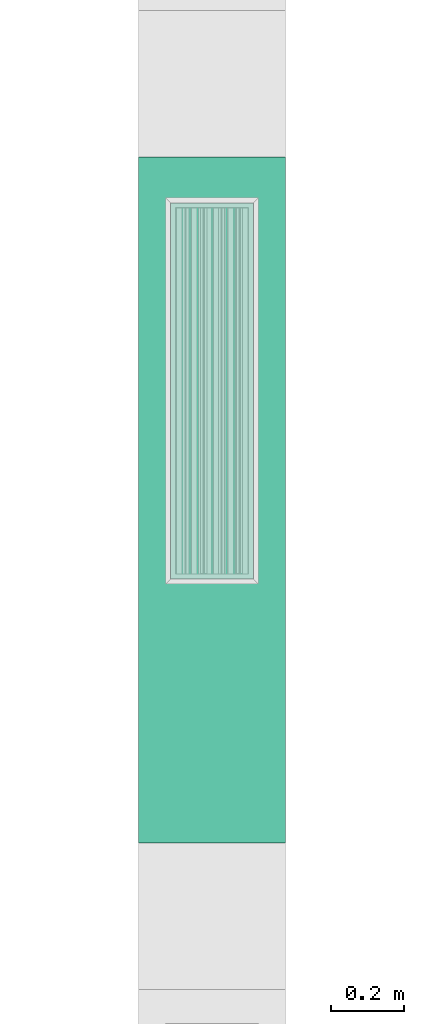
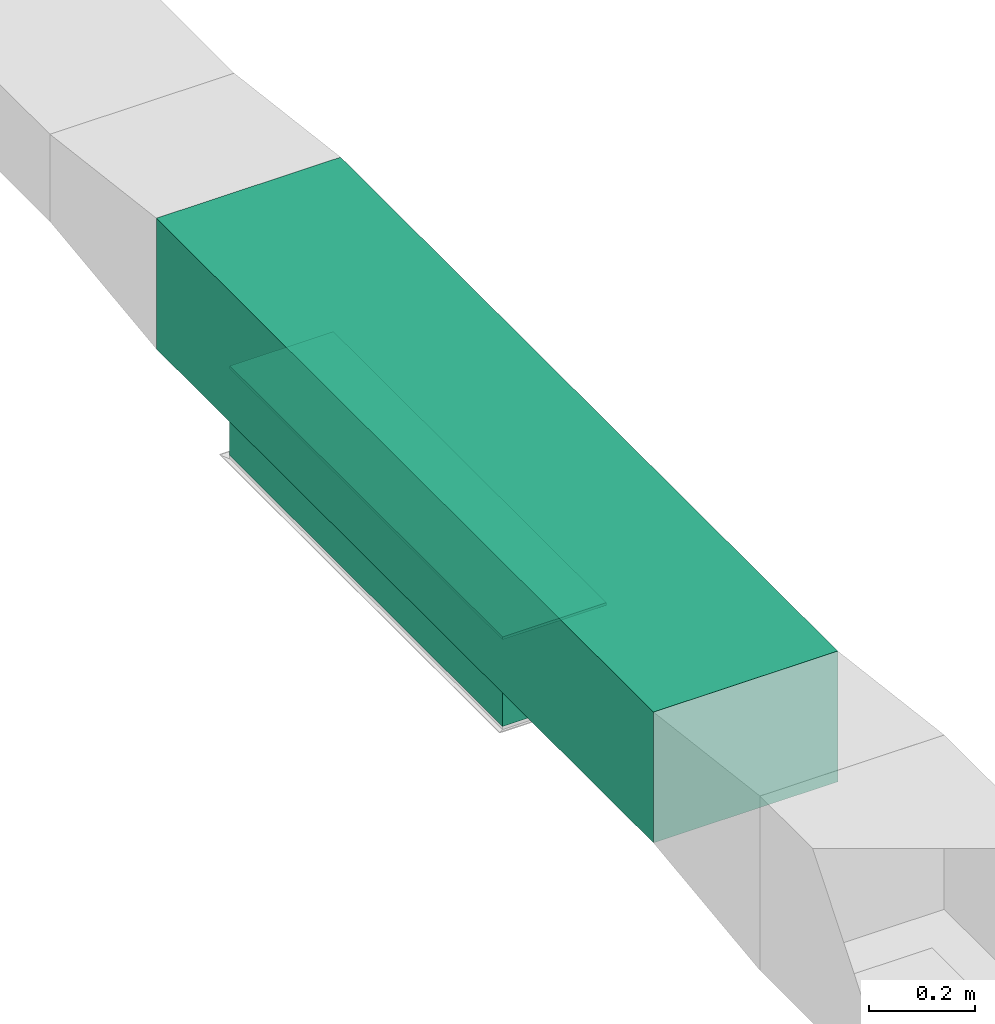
# One storey, part 15 of 60: 2 flow segments, 1 flow fitting.
"""IFC2X3 building model written with IfcOpenShell, lengths in millimetres."""

from ifc_helpers import new_model, entity, si_unit, converted_unit, derived_unit, direction, frame, frame_2d, origin, origin_2d_with_axis, place, context, subcontext, project, spatial, polyline, rectangle, outline, extrude, source, transform, mapped, material, type_object, type_shapes, element, save


model = new_model("IFC2X3")

# Units and contexts
model_context = context("Model", 3, precision=0.01, world=origin(), true_north=direction((6.123233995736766e-17, 1.0)))
body_context = subcontext(model_context, "Body", "Model", "MODEL_VIEW")
ifc_project = project(units=[si_unit("LENGTHUNIT", "METRE", prefix="MILLI"), converted_unit("PLANEANGLEUNIT", "DEGREE", entity("IfcPlaneAngleMeasure", 0.017453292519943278), si_unit("PLANEANGLEUNIT", "RADIAN"), dimensions=[0, 0, 0, 0, 0, 0, 0]), si_unit("AREAUNIT", "SQUARE_METRE"), derived_unit("THERMALTRANSMITTANCEUNIT", [(si_unit("MASSUNIT", "GRAM", prefix="KILO"), 1), (si_unit("THERMODYNAMICTEMPERATUREUNIT", "KELVIN"), -1), (si_unit("TIMEUNIT", "SECOND"), -3)])], contexts=[model_context])

# Site, building, storey
site_placement = place(None, origin())
site = spatial("IfcSite", under=ifc_project, at=site_placement, Name="Default", CompositionType="ELEMENT")
building_placement = place(site_placement, origin())
building = spatial("IfcBuilding", under=site, at=building_placement, Name="Praça Pedro II, 1301 - Centro (Sul), Teresina - PI, 64001-100", CompositionType="ELEMENT")
storey_placement = place(building_placement, frame((0.0, 0.0, 6040.0)))
storey = spatial("IfcBuildingStorey", under=building, at=storey_placement, Name="2PAV", CompositionType="ELEMENT", Elevation=6040.0)

# Flow segments
duct_segment_type = type_object("IfcDuctSegmentType", Name="Duto retangular:Raios cotovelos / torneiras", PredefinedType="NOTDEFINED")
flow_segment_1_placement = place(storey_placement, origin())
element("IfcFlowSegment", 1, at=flow_segment_1_placement, inside=storey, type_object=duct_segment_type, Name="Duto retangular:Raios cotovelos / torneiras", ObjectType="Duto retangular:Raios cotovelos / torneiras", context=body_context, shape_type="SweptSolid", body=[
    extrude(rectangle(XDim=1868.8014561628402, YDim=400.0, at=frame_2d((-8.640199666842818e-12, -2.1742607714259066e-12), x_axis=(1.0, 0.0))), frame((35678.62107154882, -54867.95937981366, 3300.0), z_axis=(0.0, 0.0, 1.0), x_axis=(0.0, -1.0, 0.0)), (0.0, 0.0, 1.0), 300.0000000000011),
])
flow_segment_2_placement = place(storey_placement, origin())
element("IfcFlowSegment", 2, at=flow_segment_2_placement, inside=storey, type_object=duct_segment_type, Name="Duto retangular:Raios cotovelos / torneiras", ObjectType="Duto retangular:Raios cotovelos / torneiras", context=body_context, shape_type="SweptSolid", body=[
    extrude(rectangle(XDim=1025.000000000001, YDim=225.00000000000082, at=origin_2d_with_axis()), frame((35678.62107154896, -54570.52768917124, 3100.0), z_axis=(0.0, 0.0, 1.0), x_axis=(0.0, 1.0, 0.0)), (0.0, 0.0, 1.0), 198.99999999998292),
])

# Flow fitting
ifc_material = material(Name="<Unnamed>")
duct_fitting_type = type_object("IfcDuctFittingType", Name="M_Rectangular Tap - Beveled:Standard", PredefinedType="NOTDEFINED", material=ifc_material)
shared_shape = source(origin(), body_context, "Body", "SweptSolid", [
    extrude(outline(polyline([(-615.4000000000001, -3.03840000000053), (409.59999999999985, -3.03840000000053), (410.6000000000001, -2.0384000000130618), (410.6000000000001, 4.0576000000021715), (-615.4000000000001, 4.05759999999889), (-615.4000000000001, -3.03840000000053)])), frame((-2.0383999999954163, 102.90000000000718, -112.49999999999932), z_axis=(0.0, 0.0, 1.0), x_axis=(0.0, 1.0, 0.0)), (0.0, 0.0, 1.0), 224.99999999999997),
])
type_shapes(duct_fitting_type, [shared_shape])
flow_fitting_placement = place(storey_placement, frame((35678.62107154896, -54570.52768917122, 3300.0), z_axis=(-1.0, 0.0, 0.0), x_axis=(0.0, 0.0, -1.0)))
element("IfcFlowFitting", 3, at=flow_fitting_placement, inside=storey, type_object=duct_fitting_type, material=ifc_material, Name="M_Rectangular Tap - Beveled:Standard", ObjectType="M_Rectangular Tap - Beveled:Standard", context=body_context, shape_type="MappedRepresentation", body=[
    mapped(shared_shape, transform((0.0, 0.0, 0.0), scale=1.0)),
])

save(model, "model.ifc")
